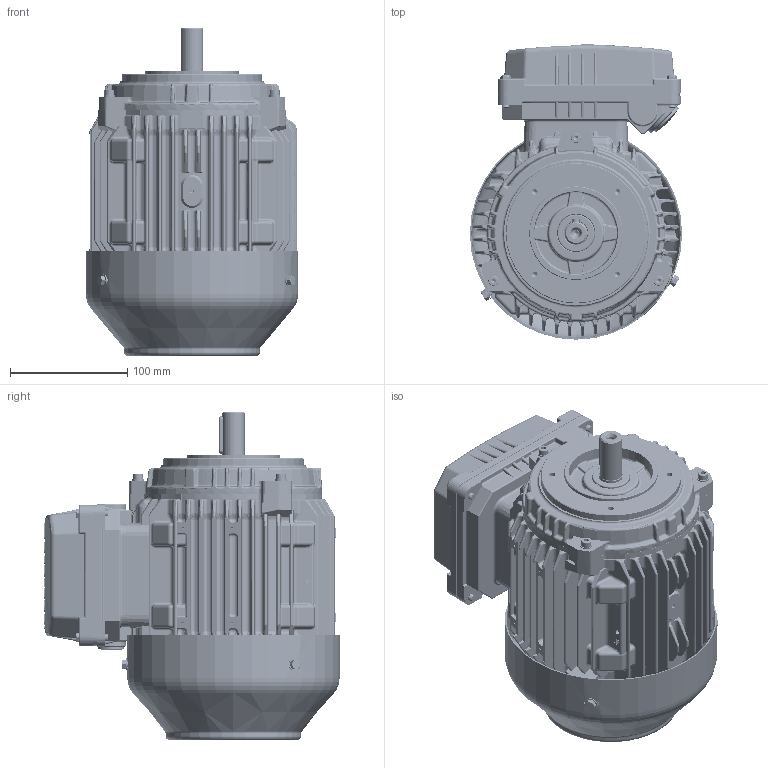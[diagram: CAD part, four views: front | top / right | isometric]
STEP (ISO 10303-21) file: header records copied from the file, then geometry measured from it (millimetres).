
FILE_DESCRIPTION (( 'STEP AP203' ), '1' );
FILE_NAME ('0208000182_RevB.STEP', '2018-06-28T13:05:59', ( '' ), ( '' ), 'SwSTEP 2.0', 'SolidWorks 2015', '' );
FILE_SCHEMA (( 'CONFIG_CONTROL_DESIGN' ));
Products named in the file (1): 0208000182_RevB
Bounding box: 181.4 x 252.2 x 281 mm (x, y, z)
Volume: 1520756.9 mm3; surface area: 688177.2 mm2
Topology: 35 solids, 35 shells, 7102 faces, 17356 edges, 10264 vertices
Faces by surface type: cylinder 2103, bspline 2019, plane 1190, torus 841, cone 787, sphere 162
Entity records: 281467 total; most frequent: CARTESIAN_POINT 129856, ORIENTED_EDGE 34288, DIRECTION 29070, EDGE_CURVE 17144, AXIS2_PLACEMENT_3D 12075, VERTEX_POINT 10258, EDGE_LOOP 7546, FACE_OUTER_BOUND 7102
